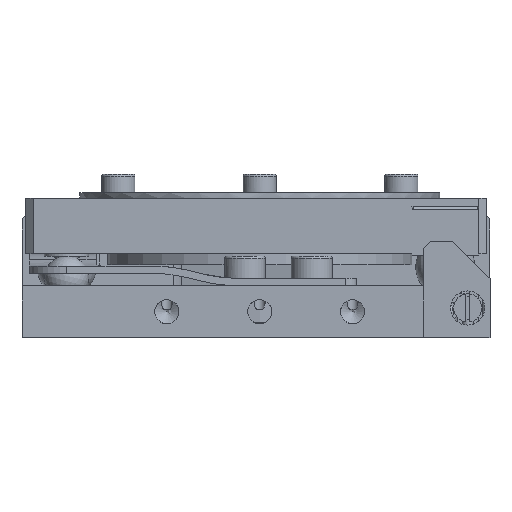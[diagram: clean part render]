
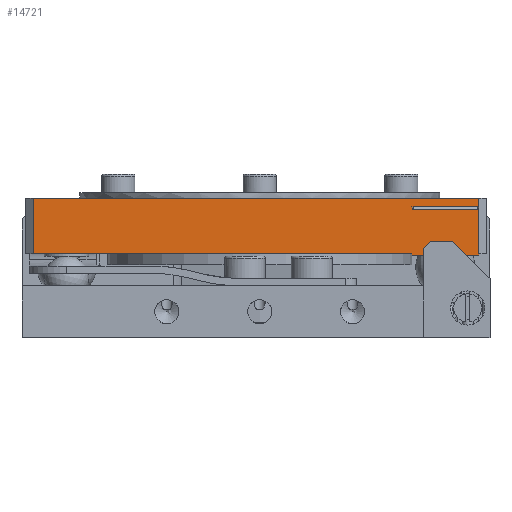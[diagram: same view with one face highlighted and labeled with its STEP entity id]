
A CAD part, front view. The second image highlights one B-rep face of the part: STEP entity #14721.
In plain terms, the highlighted planar face has unit normal (0, -1, 0).
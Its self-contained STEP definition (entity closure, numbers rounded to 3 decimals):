
#537=PLANE('',#15536);
#1484=FACE_OUTER_BOUND('',#2288,.T.);
#2288=EDGE_LOOP('',(#10968,#10969,#10970,#10971,#10972,#10973,#10974,#10975,
#10976,#10977,#10978,#10979,#10980,#10981,#10982));
#3320=LINE('',#20059,#4550);
#3334=LINE('',#20100,#4564);
#3339=LINE('',#20109,#4569);
#3345=LINE('',#20122,#4575);
#3346=LINE('',#20125,#4576);
#3348=LINE('',#20128,#4578);
#3349=LINE('',#20131,#4579);
#3351=LINE('',#20134,#4581);
#3362=LINE('',#20156,#4592);
#3364=LINE('',#20164,#4594);
#3381=LINE('',#20244,#4611);
#3907=LINE('',#24191,#5137);
#3908=LINE('',#24193,#5138);
#3909=LINE('',#24194,#5139);
#3910=LINE('',#24195,#5140);
#4550=VECTOR('',#16470,10.);
#4564=VECTOR('',#16504,10.);
#4569=VECTOR('',#16511,10.);
#4575=VECTOR('',#16523,10.);
#4576=VECTOR('',#16526,10.);
#4578=VECTOR('',#16530,10.);
#4579=VECTOR('',#16533,10.);
#4581=VECTOR('',#16537,10.);
#4592=VECTOR('',#16552,10.);
#4594=VECTOR('',#16562,10.);
#4611=VECTOR('',#16605,10.);
#5137=VECTOR('',#17681,10.);
#5138=VECTOR('',#17682,10.);
#5139=VECTOR('',#17683,10.);
#5140=VECTOR('',#17684,10.);
#5794=VERTEX_POINT('',#20053);
#5796=VERTEX_POINT('',#20057);
#5807=VERTEX_POINT('',#20085);
#5812=VERTEX_POINT('',#20097);
#5813=VERTEX_POINT('',#20099);
#5815=VERTEX_POINT('',#20106);
#5816=VERTEX_POINT('',#20108);
#5820=VERTEX_POINT('',#20117);
#5821=VERTEX_POINT('',#20124);
#5822=VERTEX_POINT('',#20130);
#5831=VERTEX_POINT('',#20154);
#5833=VERTEX_POINT('',#20162);
#5855=VERTEX_POINT('',#20243);
#6441=VERTEX_POINT('',#24190);
#6442=VERTEX_POINT('',#24192);
#7212=EDGE_CURVE('',#5794,#5796,#3320,.T.);
#7231=EDGE_CURVE('',#5812,#5813,#3334,.T.);
#7236=EDGE_CURVE('',#5816,#5815,#3339,.T.);
#7243=EDGE_CURVE('',#5807,#5820,#3345,.T.);
#7244=EDGE_CURVE('',#5821,#5813,#3346,.T.);
#7246=EDGE_CURVE('',#5796,#5821,#3348,.T.);
#7247=EDGE_CURVE('',#5822,#5816,#3349,.T.);
#7249=EDGE_CURVE('',#5812,#5822,#3351,.T.);
#7260=EDGE_CURVE('',#5807,#5831,#3362,.T.);
#7264=EDGE_CURVE('',#5831,#5833,#3364,.T.);
#7290=EDGE_CURVE('',#5794,#5855,#3381,.T.);
#8168=EDGE_CURVE('',#5833,#6441,#3907,.T.);
#8169=EDGE_CURVE('',#6442,#6441,#3908,.T.);
#8170=EDGE_CURVE('',#5855,#6442,#3909,.T.);
#8171=EDGE_CURVE('',#5820,#5815,#3910,.T.);
#10968=ORIENTED_EDGE('',*,*,#7264,.T.);
#10969=ORIENTED_EDGE('',*,*,#8168,.T.);
#10970=ORIENTED_EDGE('',*,*,#8169,.F.);
#10971=ORIENTED_EDGE('',*,*,#8170,.F.);
#10972=ORIENTED_EDGE('',*,*,#7290,.F.);
#10973=ORIENTED_EDGE('',*,*,#7212,.T.);
#10974=ORIENTED_EDGE('',*,*,#7246,.T.);
#10975=ORIENTED_EDGE('',*,*,#7244,.T.);
#10976=ORIENTED_EDGE('',*,*,#7231,.F.);
#10977=ORIENTED_EDGE('',*,*,#7249,.T.);
#10978=ORIENTED_EDGE('',*,*,#7247,.T.);
#10979=ORIENTED_EDGE('',*,*,#7236,.T.);
#10980=ORIENTED_EDGE('',*,*,#8171,.F.);
#10981=ORIENTED_EDGE('',*,*,#7243,.F.);
#10982=ORIENTED_EDGE('',*,*,#7260,.T.);
#14721=ADVANCED_FACE('',(#1484),#537,.T.);
#15536=AXIS2_PLACEMENT_3D('',#24189,#17679,#17680);
#16470=DIRECTION('',(0.,0.,-1.));
#16504=DIRECTION('',(-1.,0.,0.));
#16511=DIRECTION('',(0.,0.,1.));
#16523=DIRECTION('',(1.,0.,0.));
#16526=DIRECTION('',(0.,0.,-1.));
#16530=DIRECTION('',(1.,0.,0.));
#16533=DIRECTION('',(1.,0.,0.));
#16537=DIRECTION('',(0.,0.,1.));
#16552=DIRECTION('',(0.,0.,1.));
#16562=DIRECTION('',(1.,0.,0.));
#16605=DIRECTION('',(-1.,0.,0.));
#17679=DIRECTION('center_axis',(0.,-1.,0.));
#17680=DIRECTION('ref_axis',(0.,0.,
-1.));
#17681=DIRECTION('',(0.,0.,1.));
#17682=DIRECTION('',(1.,0.,0.));
#17683=DIRECTION('',(0.,0.,1.));
#17684=DIRECTION('',(0.,0.,-1.));
#20053=CARTESIAN_POINT('',(53.585,-10.981,12.03));
#20057=CARTESIAN_POINT('',(53.585,-10.981,11.83));
#20059=CARTESIAN_POINT('',(53.585,-10.981,10.53));
#20085=CARTESIAN_POINT('',(53.585,-10.981,18.03));
#20097=CARTESIAN_POINT('',(59.585,-10.981,10.53));
#20099=CARTESIAN_POINT('',(56.585,-10.981,10.53));
#20100=CARTESIAN_POINT('',(62.585,-10.981,10.53));
#20106=CARTESIAN_POINT('',(62.585,-10.981,12.03));
#20108=CARTESIAN_POINT('',(62.585,-10.981,11.83));
#20109=CARTESIAN_POINT('',(62.585,-10.981,10.53));
#20117=CARTESIAN_POINT('',(62.585,-10.981,18.03));
#20122=CARTESIAN_POINT('',(62.585,-10.981,18.03));
#20124=CARTESIAN_POINT('',(56.585,-10.981,11.83));
#20125=CARTESIAN_POINT('',(56.585,-10.981,14.43));
#20128=CARTESIAN_POINT('',(59.585,-10.981,11.83));
#20130=CARTESIAN_POINT('',(59.585,-10.981,11.83));
#20131=CARTESIAN_POINT('',(62.585,-10.981,11.83));
#20134=CARTESIAN_POINT('',(59.585,-10.981,15.08));
#20154=CARTESIAN_POINT('',(53.585,-10.981,18.33));
#20156=CARTESIAN_POINT('',(53.585,-10.981,12.03));
#20162=CARTESIAN_POINT('',(62.585,-10.981,18.33));
#20164=CARTESIAN_POINT('',(60.835,-10.981,18.33));
#20243=CARTESIAN_POINT('',(2.585,-10.981,12.03));
#20244=CARTESIAN_POINT('',(63.585,-10.981,12.03));
#24189=CARTESIAN_POINT('Origin',(63.585,-10.981,12.03));
#24190=CARTESIAN_POINT('',(62.585,-10.981,19.53));
#24191=CARTESIAN_POINT('',(62.585,-10.981,19.03));
#24192=CARTESIAN_POINT('',(2.585,-10.981,19.53));
#24193=CARTESIAN_POINT('',(2.585,-10.981,19.53));
#24194=CARTESIAN_POINT('',(2.585,-10.981,12.03));
#24195=CARTESIAN_POINT('',(62.585,-10.981,12.03));
